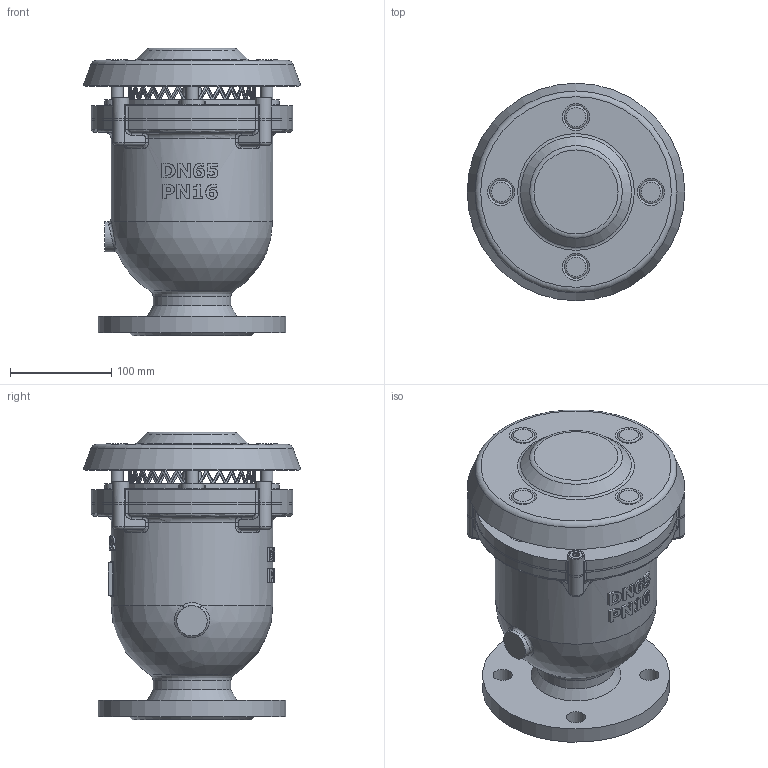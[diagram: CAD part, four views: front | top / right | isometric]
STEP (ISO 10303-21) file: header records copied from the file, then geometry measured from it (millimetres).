
FILE_DESCRIPTION(('STEP AP242'), '1');
FILE_NAME('Âîçäóøíûé êëàïàí DUOJET KX', '', ('UNSPECIFIED'), ('UNSPECIFIED'), 'C3D Converter', 'C3D Toolkit', '');
FILE_SCHEMA(('AP242_MANAGED_MODEL_BASED_3D_ENGINEERING_MIM_LF { 1 0 10303 442 1 1 4 }'));
Length unit declared in the file: millimetre
Assembly tree (29 placements, depth 2):
  (unnamed)
    (unnamed)
    (unnamed)
    (unnamed)
    (unnamed)
    (unnamed)
    (unnamed)
    (unnamed)  x4
    (unnamed)  x4
    (unnamed)
    (unnamed)
    (unnamed)
    (unnamed)
    (unnamed)  x3
    (unnamed)  x4
    (unnamed)  x4
Bounding box: 215 x 215 x 284 mm (x, y, z)
Volume: 2056621.3 mm3; surface area: 776612.4 mm2
Topology: 30 solids, 31 shells, 1379 faces, 3626 edges, 2371 vertices
Faces by surface type: bspline 433, plane 425, cylinder 261, extrusion 150, torus 56, cone 41, sphere 13
Full cylindrical faces by diameter (mm): 5.4 x4, 5.5 x4, 6 x15, 8 x20, 9 x2, 12 x4, 12.8 x4, 13 x4, 14 x4, 16 x4, 16.25 x2, 16.447 x1, 19 x4, 22.25 x1, 30 x1, 65 x2, 77 x1, 97 x2, 103 x1, 120 x1, 124 x4, 126 x1, 136 x2, 148 x1, 158 x2, 160 x3, 185 x1
Entity records: 119153 total; most frequent: CARTESIAN_POINT 88513, ORIENTED_EDGE 6462, DIRECTION 3719, EDGE_CURVE 3231, VERTEX_POINT 2185, B_SPLINE_CURVE_WITH_KNOTS 1921, EDGE_LOOP 1632, AXIS2_PLACEMENT_3D 1420
